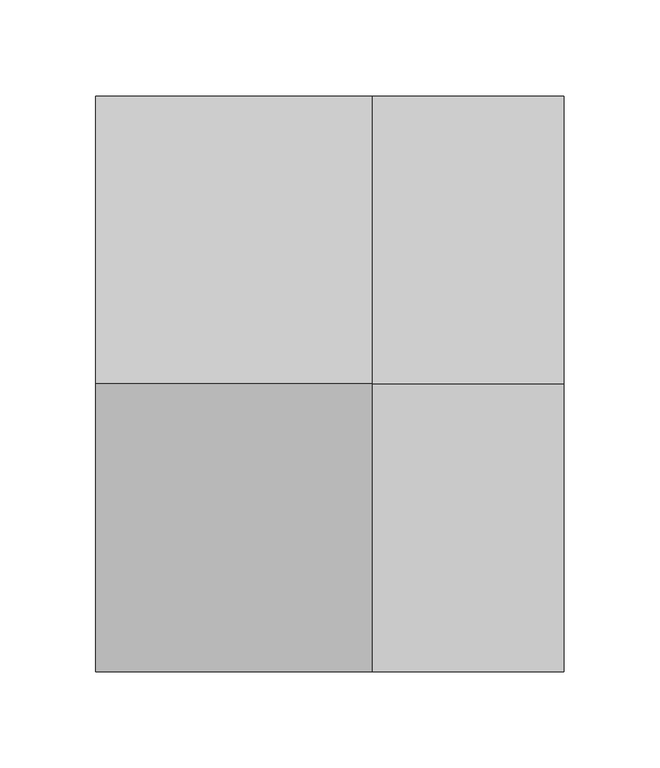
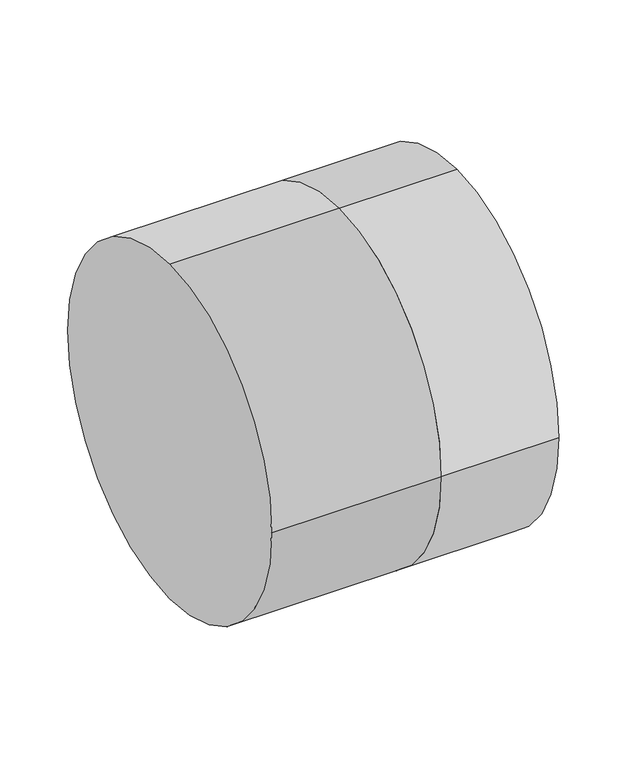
"""IFC4 building model written with IfcOpenShell, lengths in millimetres: duct fitting geometry, BL_ВрезкаВоздуховодов_Круглая : Ниппельное соединение."""

from ifc_helpers import new_model, si_unit, point, frame, origin, origin_2d, place, context, project, spatial, circle_curve, trimmed, segment, composite_curve, outline, extrude, source, transform, mapped, element, save


def duct_fitting_7090af0c(model_context):
    return source(origin(), model_context, "Body", "SweptSolid", [
        extrude(outline(composite_curve([segment(trimmed(circle_curve(origin_2d(), 150.0), [point((0.0, 150.0))], [point((150.0, 0.0))], False, "CARTESIAN"), True, "CONTINUOUS"), segment(trimmed(circle_curve(origin_2d(), 150.0), [point((150.0, 0.0))], [point((0.0, -150.0))], False, "CARTESIAN"), True, "CONTINUOUS"), segment(trimmed(circle_curve(origin_2d(), 150.0), [point((0.0, -150.0))], [point((-150.0, 0.0))], False, "CARTESIAN"), True, "CONTINUOUS"), segment(trimmed(circle_curve(origin_2d(), 150.0), [point((-150.0, 0.0))], [point((0.0, 150.0))], False, "CARTESIAN"), True, "CONTINUOUS")], self_intersect=False)), frame((-143.904, 0.0, 0.0), z_axis=(1.0, 0.0, 0.0), x_axis=(0.0, 1.0, 0.0)), (0.0, 0.0, 1.0), 143.904),
        extrude(outline(composite_curve([segment(trimmed(circle_curve(origin_2d(), 150.0), [point((0.0, 150.0))], [point((150.0, 0.0))], False, "CARTESIAN"), True, "CONTINUOUS"), segment(trimmed(circle_curve(origin_2d(), 150.0), [point((150.0, 0.0))], [point((0.0, -150.0))], False, "CARTESIAN"), True, "CONTINUOUS"), segment(trimmed(circle_curve(origin_2d(), 150.0), [point((0.0, -150.0))], [point((-150.0, 0.0))], False, "CARTESIAN"), True, "CONTINUOUS"), segment(trimmed(circle_curve(origin_2d(), 150.0), [point((-150.0, 0.0))], [point((0.0, 150.0))], False, "CARTESIAN"), True, "CONTINUOUS")], self_intersect=False)), frame((0.0, 0.0, 0.0), z_axis=(1.0, 0.0, 0.0), x_axis=(0.0, 1.0, 0.0)), (0.0, 0.0, 1.0), 100.0),
    ])


if __name__ == "__main__":
    model = new_model("IFC4")
    model_context = context("Model", 3, world=origin())
    ifc_project = project(units=[si_unit("LENGTHUNIT", "METRE", prefix="MILLI")], contexts=[model_context])
    site = spatial("IfcSite", under=ifc_project)
    building = spatial("IfcBuilding", under=site)
    placement = place(None, origin())
    duct_fitting_shape = duct_fitting_7090af0c(model_context)
    element("IfcDuctFitting", 1, ObjectType="BL_ВрезкаВоздуховодов_Круглая : Ниппельное соединение", at=placement, inside=building, context=model_context, shape_type="MappedRepresentation", body=[
        mapped(duct_fitting_shape, transform((0.0, 0.0, 0.0), x_axis=(1.0, 0.0, 0.0), y_axis=(0.0, 1.0, 0.0), z_axis=(0.0, 0.0, 1.0))),
    ])
    save(model, "model.ifc")
